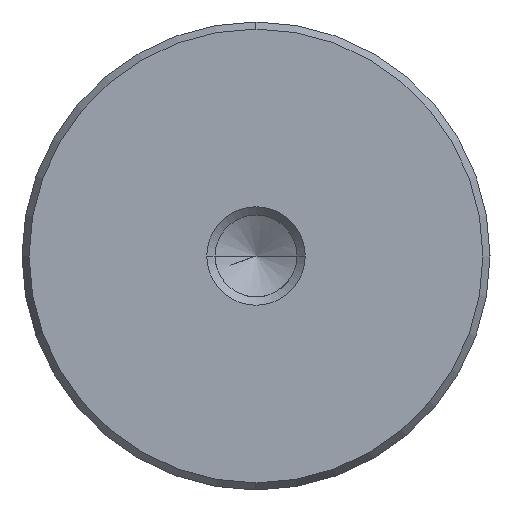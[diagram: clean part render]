
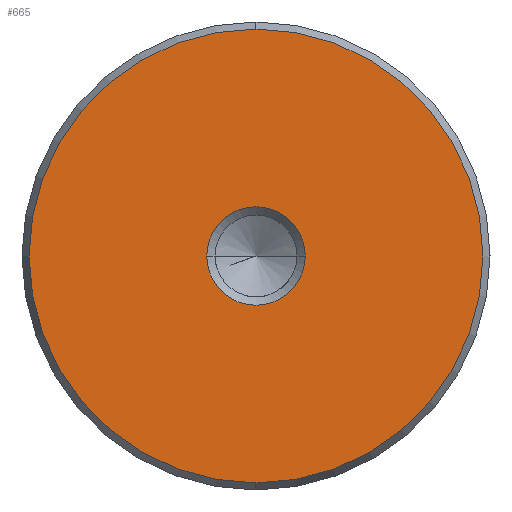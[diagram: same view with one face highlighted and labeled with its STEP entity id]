
A CAD part, left-side view. The second image highlights one B-rep face of the part: STEP entity #665.
In plain terms, the highlighted planar face has unit normal (-1, 0, 0).
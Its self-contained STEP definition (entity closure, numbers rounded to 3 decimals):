
#579=CARTESIAN_POINT('Vertex',(0.,0.,-18.423)) ;
#582=CARTESIAN_POINT('Axis2P3D Location',(0.,0.,0.)) ;
#586=CARTESIAN_POINT('Vertex',(0.,18.423,0.)) ;
#589=CARTESIAN_POINT('Axis2P3D Location',(0.,0.,0.)) ;
#593=CARTESIAN_POINT('Vertex',(0.,0.,18.423)) ;
#615=CARTESIAN_POINT('Axis2P3D Location',(0.,0.,0.)) ;
#619=CARTESIAN_POINT('Vertex',(0.,-18.423,0.)) ;
#622=CARTESIAN_POINT('Axis2P3D Location',(0.,0.,0.)) ;
#636=CARTESIAN_POINT('Axis2P3D Location',(0.,0.,0.)) ;
#647=CARTESIAN_POINT('Axis2P3D Location',(0.,0.,0.)) ;
#651=CARTESIAN_POINT('Vertex',(0.,4.,0.)) ;
#653=CARTESIAN_POINT('Vertex',(0.,-4.,0.)) ;
#656=CARTESIAN_POINT('Axis2P3D Location',(0.,0.,0.)) ;
#583=DIRECTION('Axis2P3D Direction',(1.,0.,-0.)) ;
#590=DIRECTION('Axis2P3D Direction',(1.,0.,-0.)) ;
#616=DIRECTION('Axis2P3D Direction',(1.,0.,-0.)) ;
#623=DIRECTION('Axis2P3D Direction',(1.,0.,-0.)) ;
#637=DIRECTION('Axis2P3D Direction',(1.,0.,-0.)) ;
#638=DIRECTION('Axis2P3D XDirection',(-0.,0.,-1.)) ;
#648=DIRECTION('Axis2P3D Direction',(1.,0.,-0.)) ;
#657=DIRECTION('Axis2P3D Direction',(1.,0.,-0.)) ;
#584=AXIS2_PLACEMENT_3D('Circle Axis2P3D',#582,#583,$) ;
#591=AXIS2_PLACEMENT_3D('Circle Axis2P3D',#589,#590,$) ;
#617=AXIS2_PLACEMENT_3D('Circle Axis2P3D',#615,#616,$) ;
#624=AXIS2_PLACEMENT_3D('Circle Axis2P3D',#622,#623,$) ;
#639=AXIS2_PLACEMENT_3D('Plane Axis2P3D',#636,#637,#638) ;
#649=AXIS2_PLACEMENT_3D('Circle Axis2P3D',#647,#648,$) ;
#658=AXIS2_PLACEMENT_3D('Circle Axis2P3D',#656,#657,$) ;
#642=ORIENTED_EDGE('',*,*,#588,.F.) ;
#643=ORIENTED_EDGE('',*,*,#626,.F.) ;
#644=ORIENTED_EDGE('',*,*,#621,.F.) ;
#645=ORIENTED_EDGE('',*,*,#595,.F.) ;
#662=ORIENTED_EDGE('',*,*,#655,.T.) ;
#663=ORIENTED_EDGE('',*,*,#660,.T.) ;
#664=FACE_BOUND('',#661,.T.) ;
#665=ADVANCED_FACE('720-38x450',(#646,#664),#640,.F.) ;
#585=CIRCLE('generated circle',#584,18.423) ;
#592=CIRCLE('generated circle',#591,18.423) ;
#618=CIRCLE('generated circle',#617,18.423) ;
#625=CIRCLE('generated circle',#624,18.423) ;
#650=CIRCLE('generated circle',#649,4.) ;
#659=CIRCLE('generated circle',#658,4.) ;
#588=EDGE_CURVE('',#580,#587,#585,.T.) ;
#595=EDGE_CURVE('',#587,#594,#592,.T.) ;
#621=EDGE_CURVE('',#594,#620,#618,.T.) ;
#626=EDGE_CURVE('',#620,#580,#625,.T.) ;
#655=EDGE_CURVE('',#652,#654,#650,.T.) ;
#660=EDGE_CURVE('',#654,#652,#659,.T.) ;
#641=EDGE_LOOP('',(#642,#643,#644,#645)) ;
#661=EDGE_LOOP('',(#662,#663)) ;
#646=FACE_OUTER_BOUND('',#641,.T.) ;
#640=PLANE('Plane',#639) ;
#580=VERTEX_POINT('',#579) ;
#587=VERTEX_POINT('',#586) ;
#594=VERTEX_POINT('',#593) ;
#620=VERTEX_POINT('',#619) ;
#652=VERTEX_POINT('',#651) ;
#654=VERTEX_POINT('',#653) ;
